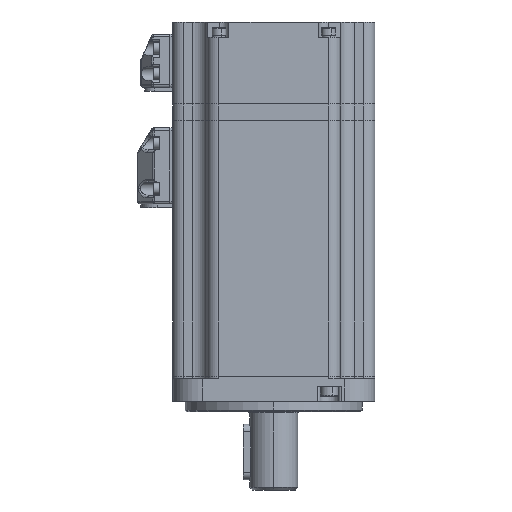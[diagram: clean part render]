
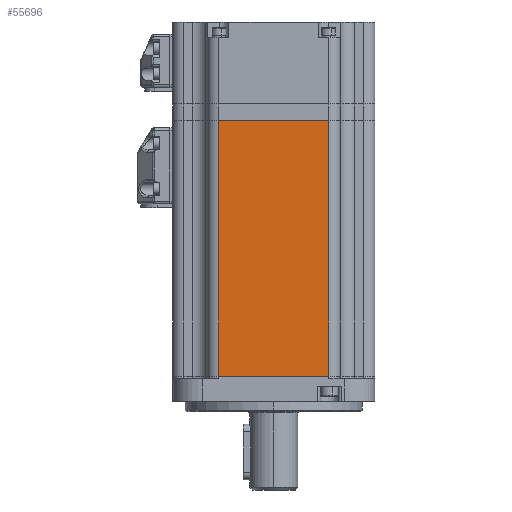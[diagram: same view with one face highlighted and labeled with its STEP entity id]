
A CAD part, left-side view. The second image highlights one B-rep face of the part: STEP entity #55696.
In plain terms, the highlighted planar face has unit normal (-1, 0, 0).
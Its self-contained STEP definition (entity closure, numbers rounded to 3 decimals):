
#637 = EDGE_CURVE ( 'NONE', #53760, #35314, #12373, .T. ) ;
#1597 = DIRECTION ( 'NONE',  ( 0., 0., 1. ) ) ;
#2949 = DIRECTION ( 'NONE',  ( 0., 0., -1. ) ) ;
#10637 = FACE_OUTER_BOUND ( 'NONE', #27474, .T. ) ;
#11095 = AXIS2_PLACEMENT_3D ( 'NONE', #56970, #19038, #63347 ) ;
#12373 = LINE ( 'NONE', #12736, #60960 ) ;
#12736 = CARTESIAN_POINT ( 'NONE',  ( -40., 26.25, 0. ) ) ;
#15545 = EDGE_CURVE ( 'NONE', #35314, #28695, #71520, .T. ) ;
#17772 = DIRECTION ( 'NONE',  ( 0., -1., 0. ) ) ;
#19038 = DIRECTION ( 'NONE',  ( 1., 0., 0. ) ) ;
#19702 = EDGE_CURVE ( 'NONE', #70243, #28695, #63480, .T. ) ;
#25175 = ORIENTED_EDGE ( 'NONE', *, *, #32278, .T. ) ;
#27016 = CARTESIAN_POINT ( 'NONE',  ( -40., -21.75, 0. ) ) ;
#27474 = EDGE_LOOP ( 'NONE', ( #64724, #25175, #53928, #39739 ) ) ;
#28695 = VERTEX_POINT ( 'NONE', #47590 ) ;
#32278 = EDGE_CURVE ( 'NONE', #70243, #53760, #66098, .T. ) ;
#35314 = VERTEX_POINT ( 'NONE', #27016 ) ;
#37775 = VECTOR ( 'NONE', #1597, 1000. ) ;
#39739 = ORIENTED_EDGE ( 'NONE', *, *, #15545, .T. ) ;
#44589 = VECTOR ( 'NONE', #17772, 1000. ) ;
#46104 = CARTESIAN_POINT ( 'NONE',  ( -40., -21.75, 101.1 ) ) ;
#47590 = CARTESIAN_POINT ( 'NONE',  ( -40., -21.75, 101.1 ) ) ;
#49212 = VECTOR ( 'NONE', #2949, 1000. ) ;
#50672 = DIRECTION ( 'NONE',  ( 0., -1., 0. ) ) ;
#50838 = CARTESIAN_POINT ( 'NONE',  ( -40., 21.75, 101.1 ) ) ;
#53760 = VERTEX_POINT ( 'NONE', #55072 ) ;
#53928 = ORIENTED_EDGE ( 'NONE', *, *, #637, .T. ) ;
#55072 = CARTESIAN_POINT ( 'NONE',  ( -40., 21.75, 0. ) ) ;
#55696 = ADVANCED_FACE ( 'NONE', ( #10637 ), #62509, .F. ) ;
#56970 = CARTESIAN_POINT ( 'NONE',  ( -40., 26.25, 101.1 ) ) ;
#59999 = CARTESIAN_POINT ( 'NONE',  ( -40., 21.75, 101.1 ) ) ;
#60960 = VECTOR ( 'NONE', #50672, 1000. ) ;
#62509 = PLANE ( 'NONE',  #11095 ) ;
#63347 = DIRECTION ( 'NONE',  ( 0., 1., 0. ) ) ;
#63480 = LINE ( 'NONE', #74584, #44589 ) ;
#64724 = ORIENTED_EDGE ( 'NONE', *, *, #19702, .F. ) ;
#66098 = LINE ( 'NONE', #59999, #49212 ) ;
#70243 = VERTEX_POINT ( 'NONE', #50838 ) ;
#71520 = LINE ( 'NONE', #46104, #37775 ) ;
#74584 = CARTESIAN_POINT ( 'NONE',  ( -40., 26.25, 101.1 ) ) ;
